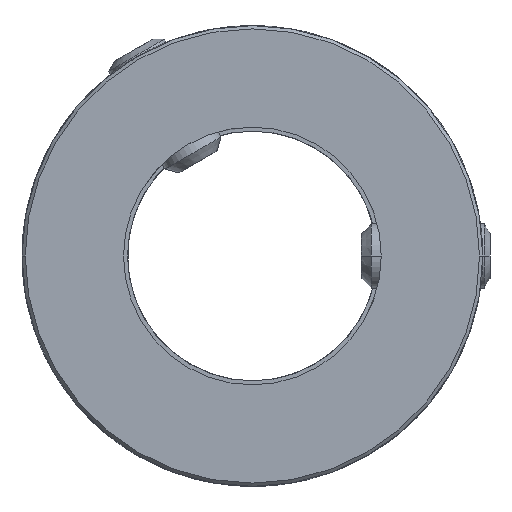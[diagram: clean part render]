
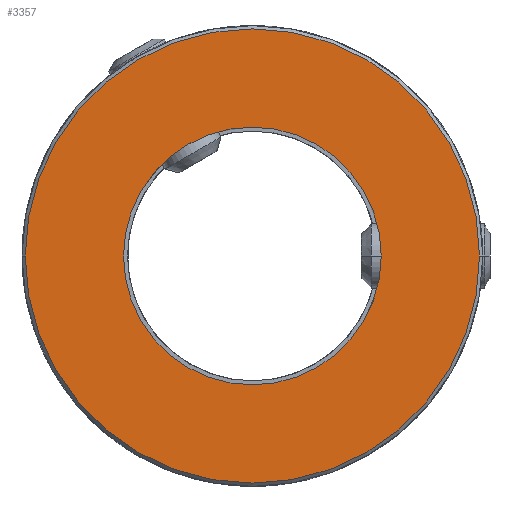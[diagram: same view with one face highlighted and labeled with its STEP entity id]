
A CAD part, front view. The second image highlights one B-rep face of the part: STEP entity #3357.
In plain terms, the highlighted planar face has unit normal (0, -1, 0).
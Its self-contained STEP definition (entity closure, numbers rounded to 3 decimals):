
#1=CARTESIAN_POINT('',(0.,-65.,
0.));
#2=DIRECTION('',(0.,-1.,0.));
#3=DIRECTION('',(-1.,0.,0.));
#4=AXIS2_PLACEMENT_3D('',#1,#2,#3);
#6=CARTESIAN_POINT('',(0.,-65.,
0.));
#7=DIRECTION('',(0.,-1.,0.));
#8=DIRECTION('',(1.,0.,0.));
#9=AXIS2_PLACEMENT_3D('',#6,#7,#8);
#11=CARTESIAN_POINT('',(0.,-65.,0.));
#12=DIRECTION('',(0.,1.,0.));
#13=DIRECTION('',(1.,0.,0.));
#14=AXIS2_PLACEMENT_3D('',#11,#12,#13);
#16=CARTESIAN_POINT('',(0.,-65.,0.));
#17=DIRECTION('',(0.,1.,0.));
#18=DIRECTION('',(-1.,0.,0.));
#19=AXIS2_PLACEMENT_3D('',#16,#17,#18);
#3099=CARTESIAN_POINT('',(16.,-65.,0.));
#3100=CARTESIAN_POINT('',(-16.,-65.,0.));
#3101=VERTEX_POINT('',#3099);
#3102=VERTEX_POINT('',#3100);
#3119=CARTESIAN_POINT('',(-28.2,-65.,0.));
#3120=CARTESIAN_POINT('',(28.2,-65.,0.));
#3121=VERTEX_POINT('',#3119);
#3122=VERTEX_POINT('',#3120);
#3340=CARTESIAN_POINT('',(0.,-65.,0.));
#3341=DIRECTION('',(0.,1.,0.));
#3342=DIRECTION('',(1.,0.,0.));
#3343=AXIS2_PLACEMENT_3D('',#3340,#3341,#3342);
#3344=PLANE('',#3343);
#3346=ORIENTED_EDGE('',*,*,#3345,.F.);
#3348=ORIENTED_EDGE('',*,*,#3347,.F.);
#3349=EDGE_LOOP('',(#3346,#3348));
#3350=FACE_OUTER_BOUND('',#3349,.F.);
#3352=ORIENTED_EDGE('',*,*,#3351,.F.);
#3354=ORIENTED_EDGE('',*,*,#3353,.F.);
#3355=EDGE_LOOP('',(#3352,#3354));
#3356=FACE_BOUND('',#3355,.F.);
#3357=ADVANCED_FACE('',(#3350,#3356),#3344,.F.);
#5=CIRCLE('',#4,28.2);
#10=CIRCLE('',#9,28.2);
#15=CIRCLE('',#14,16.);
#20=CIRCLE('',#19,16.);
#3345=EDGE_CURVE('',#3121,#3122,#5,.T.);
#3347=EDGE_CURVE('',#3122,#3121,#10,.T.);
#3351=EDGE_CURVE('',#3101,#3102,#15,.T.);
#3353=EDGE_CURVE('',#3102,#3101,#20,.T.);
